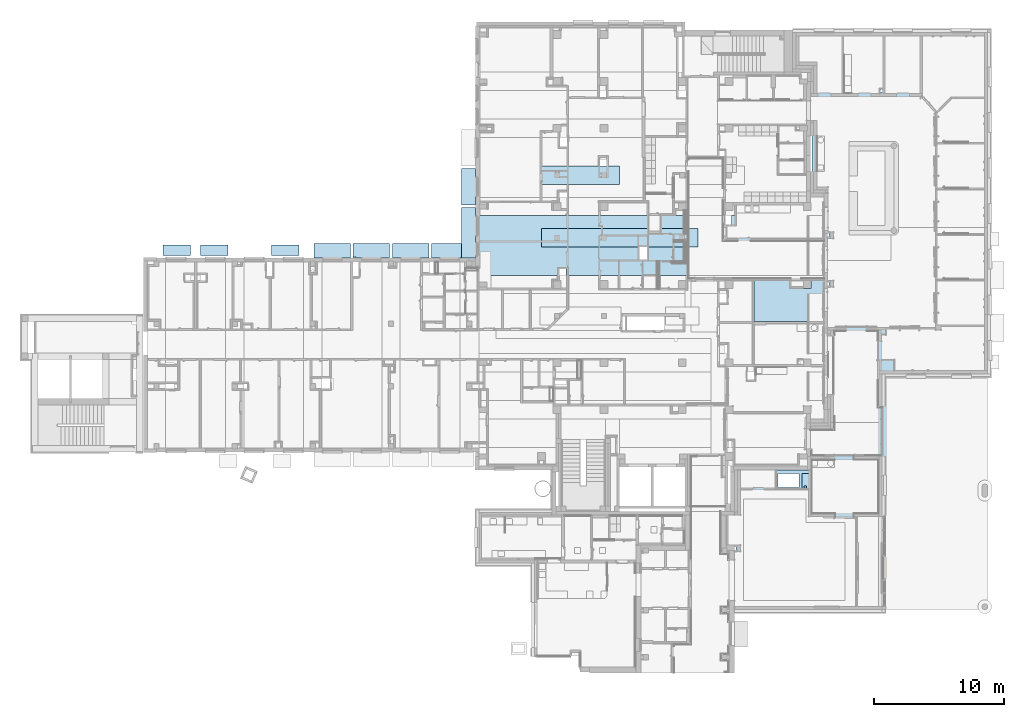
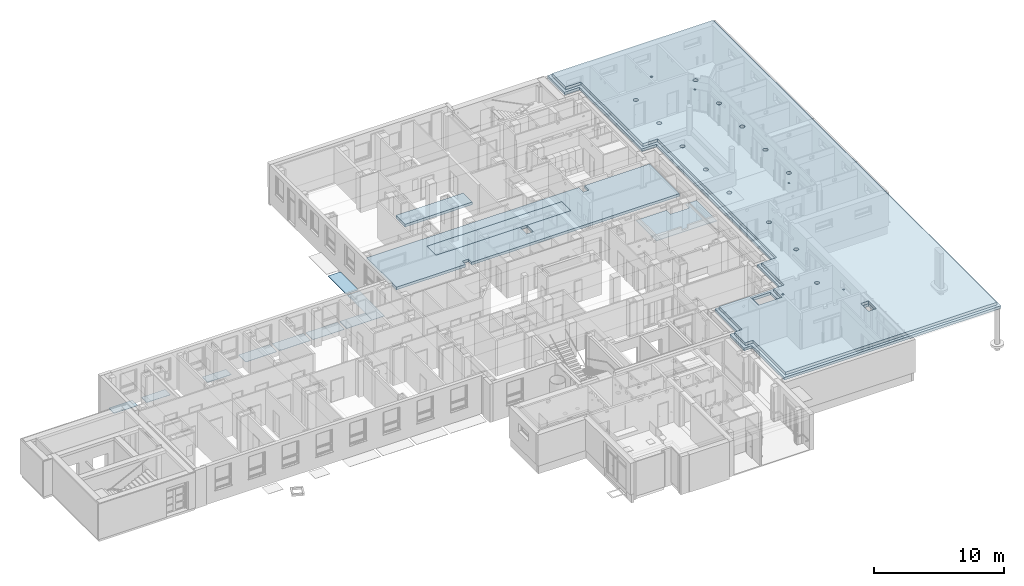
# One storey, part 11 of 140: 15 slabs, 51 openings.
"""IFC4 building model written with IfcOpenShell, lengths in metres."""

from ifc_helpers import new_model, entity, si_unit, converted_unit, derived_unit, frame, frame_2d, origin, origin_with_axes, place, context, subcontext, project, spatial, polyline, rectangle, circle, outline, extrude, material, element, save


model = new_model("IFC4")

# Units and contexts
model_context = context("Model", 3, precision=1e-05, world=origin())
body_context = subcontext(model_context, "Body", "Model", "MODEL_VIEW")
ifc_project = project(units=[si_unit("LENGTHUNIT", "METRE"), si_unit("AREAUNIT", "SQUARE_METRE"), si_unit("VOLUMEUNIT", "CUBIC_METRE"), si_unit("MASSUNIT", "GRAM", prefix="KILO"), converted_unit("PLANEANGLEUNIT", "DEGREE", entity("IfcPlaneAngleMeasure", 0.0174532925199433), si_unit("PLANEANGLEUNIT", "RADIAN"), dimensions=[0, 0, 0, 0, 0, 0, 0]), derived_unit("THERMALTRANSMITTANCEUNIT", [(si_unit("POWERUNIT", "WATT"), 1), (si_unit("THERMODYNAMICTEMPERATUREUNIT", "KELVIN"), -1), (si_unit("LENGTHUNIT", "METRE"), -2)]), derived_unit("VOLUMETRICFLOWRATEUNIT", [(si_unit("LENGTHUNIT", "METRE"), 3), (converted_unit("TIMEUNIT", "hour", entity("IfcTimeMeasure", 3600.0), si_unit("TIMEUNIT", "SECOND"), dimensions=[0, 0, 1, 0, 0, 0, 0]), -1), (si_unit("LENGTHUNIT", "METRE"), -1)])], contexts=[model_context])

# Site, building, storey
site_placement = place(None, origin())
site = spatial("IfcSite", under=ifc_project, at=site_placement, Name="3. ASŘ", CompositionType="ELEMENT")
building_placement = place(site_placement, origin())
building = spatial("IfcBuilding", under=site, at=building_placement, Name="Pavilon C", CompositionType="ELEMENT")
storey_placement = place(building_placement, origin())
storey = spatial("IfcBuildingStorey", under=building, at=storey_placement, Name="Půdorys 1.NP", CompositionType="ELEMENT", Elevation=0.0)

# Slabs
ifc_material_1 = material(Name="ROŠT")
slab_1_placement = place(storey_placement, frame((12.1, 15.25, 0.05)))
element("IfcSlab", 1, at=slab_1_placement, inside=storey, material=ifc_material_1, PredefinedType="FLOOR", context=body_context, shape_type="SweptSolid", body=[
    extrude(rectangle(XDim=1.10500000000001, YDim=2.8, at=frame_2d((1.4, -0.552500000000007), x_axis=(0.0, -1.0))), frame((0.0, 1.10500000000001, 0.0), z_axis=(0.0, 0.0, 1.0), x_axis=(1.0, 0.0, 0.0)), (0.0, 0.0, 1.0), 0.03),
])
ifc_material_2 = material(Name="ROŠT")
slab_2_placement = place(storey_placement, frame((23.395, 15.25, 0.05)))
element("IfcSlab", 2, at=slab_2_placement, inside=storey, material=ifc_material_2, PredefinedType="FLOOR", context=body_context, shape_type="SweptSolid", body=[
    extrude(rectangle(XDim=1.10500000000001, YDim=3.84999999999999, at=frame_2d((0.552500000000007, 1.925), x_axis=(1.0, 0.0))), origin_with_axes(), (0.0, 0.0, 1.0), 0.03),
])
ifc_material_3 = material(Name="ROŠT")
slab_3_placement = place(storey_placement, frame((21.1, 15.25, 0.05)))
element("IfcSlab", 3, at=slab_3_placement, inside=storey, material=ifc_material_3, PredefinedType="FLOOR", context=body_context, shape_type="SweptSolid", body=[
    extrude(rectangle(XDim=1.10500000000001, YDim=2.295, at=frame_2d((1.1475, -0.552500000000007), x_axis=(0.0, -1.0))), frame((0.0, 1.10500000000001, 0.0), z_axis=(0.0, 0.0, 1.0), x_axis=(1.0, 0.0, 0.0)), (0.0, 0.0, 1.0), 0.03),
])
ifc_material_4 = material(Name="ROŠT")
slab_4_placement = place(storey_placement, frame((18.1, 15.25, 0.05)))
element("IfcSlab", 4, at=slab_4_placement, inside=storey, material=ifc_material_4, PredefinedType="FLOOR", context=body_context, shape_type="SweptSolid", body=[
    extrude(rectangle(XDim=1.10500000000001, YDim=2.8, at=frame_2d((1.4, -0.552500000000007), x_axis=(0.0, -1.0))), frame((0.0, 1.10500000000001, 0.0), z_axis=(0.0, 0.0, 1.0), x_axis=(1.0, 0.0, 0.0)), (0.0, 0.0, 1.0), 0.03),
])
ifc_material_5 = material(Name="ROŠT")
slab_5_placement = place(storey_placement, frame((23.395, 19.3, 0.05)))
element("IfcSlab", 5, at=slab_5_placement, inside=storey, material=ifc_material_5, PredefinedType="FLOOR", context=body_context, shape_type="SweptSolid", body=[
    extrude(rectangle(XDim=1.10500000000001, YDim=2.8, at=frame_2d((0.552500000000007, 1.4), x_axis=(1.0, 0.0))), origin_with_axes(), (0.0, 0.0, 1.0), 0.03),
])

# Slab, opening
ifc_material_6 = material(Name="ROŠT")
slab_6_placement = place(storey_placement, frame((15.1, 15.25, 0.05)))
slab_6 = element("IfcSlab", 6, at=slab_6_placement, inside=storey, material=ifc_material_6, PredefinedType="FLOOR", context=body_context, shape_type="SweptSolid", body=[
    extrude(rectangle(XDim=1.10500000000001, YDim=2.8, at=frame_2d((1.4, -0.552500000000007), x_axis=(0.0, -1.0))), frame((0.0, 1.10500000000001, 0.0), z_axis=(0.0, 0.0, 1.0), x_axis=(1.0, 0.0, 0.0)), (0.0, 0.0, 1.0), 0.03),
])
opening_1_placement = place(slab_6_placement, frame((0.0379643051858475, 0.0150000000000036, 0.0)))
element("IfcOpeningElement", 7, at=opening_1_placement, cuts=slab_6, Name="Prostup deskou", ObjectType="Opening", context=body_context, shape_type="SweptSolid", body=[
    extrude(rectangle(XDim=0.08, YDim=0.13, at=frame_2d((0.0, -3.63797880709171e-15), x_axis=(0.0, -1.0))), frame((0.065, 0.0400000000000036, 0.0), z_axis=(0.0, 0.0, 1.0), x_axis=(1.0, 0.0, 0.0)), (0.0, 0.0, 1.0), 0.03),
])

# Slabs
ifc_material_7 = material(Name="RZT")
slab_7_placement = place(storey_placement, frame((29.55, 20.9, 3.25)))
element("IfcSlab", 8, at=slab_7_placement, inside=storey, material=ifc_material_7, PredefinedType="FLOOR", context=body_context, shape_type="SweptSolid", body=[
    extrude(rectangle(XDim=1.4, YDim=6.0, at=frame_2d((-3.0, 0.7), x_axis=(0.0, 1.0))), frame((6.0, 0.0, 0.0), z_axis=(0.0, 0.0, 1.0), x_axis=(1.0, 0.0, 0.0)), (0.0, 0.0, 1.0), 0.25),
])
ifc_material_8 = material(Name="RZT")
slab_8_placement = place(storey_placement, frame((29.55, 16.1, 3.25)))
element("IfcSlab", 9, at=slab_8_placement, inside=storey, material=ifc_material_8, PredefinedType="FLOOR", context=body_context, shape_type="SweptSolid", body=[
    extrude(rectangle(XDim=1.4, YDim=12.0, at=frame_2d((-6.0, 0.7), x_axis=(0.0, 1.0))), frame((12.0, 0.0, 0.0), z_axis=(0.0, 0.0, 1.0), x_axis=(1.0, 0.0, 0.0)), (0.0, 0.0, 1.0), 0.25),
])

# Slab, openings
ifc_material_9 = material(Name="PZD")
slab_9_placement = place(storey_placement, frame((24.75, 13.9, 3.25)))
slab_9 = element("IfcSlab", 10, at=slab_9_placement, inside=storey, material=ifc_material_9, PredefinedType="FLOOR", context=body_context, shape_type="SweptSolid", body=[
    extrude(outline(polyline([(0.0, 4.6), (0.0, 0.0), (25.2, 0.0), (25.2, 4.6), (0.0, 4.6)]), holes=[polyline([(4.8, 3.6), (16.8, 3.6), (16.8, 2.2), (4.8, 2.2), (4.8, 3.6)])]), origin_with_axes(), (0.0, 0.0, 1.0), 0.25),
])
opening_2_placement = place(slab_9_placement, frame((18.9, 3.9, 0.0)))
element("IfcOpeningElement", 11, at=opening_2_placement, cuts=slab_9, Name="Prostup deskou", ObjectType="Opening", context=body_context, shape_type="SweptSolid", body=[
    extrude(rectangle(XDim=0.7, YDim=0.5, at=frame_2d((7.27595761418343e-15, -3.63797880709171e-15), x_axis=(0.0, -1.0))), frame((0.249999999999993, 0.350000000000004, 0.0), z_axis=(0.0, 0.0, 1.0), x_axis=(1.0, 0.0, 0.0)), (0.0, 0.0, 1.0), 0.25),
])
opening_3_placement = place(slab_9_placement, frame((12.3, 1.2, 0.0)))
element("IfcOpeningElement", 12, at=opening_3_placement, cuts=slab_9, Name="Prostup deskou", ObjectType="Opening", context=body_context, shape_type="SweptSolid", body=[
    extrude(rectangle(XDim=1.0, YDim=0.6, at=frame_2d((7.27595761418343e-15, -3.63797880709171e-15), x_axis=(0.0, -1.0))), frame((0.299999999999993, 0.500000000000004, 0.0), z_axis=(0.0, 0.0, 1.0), x_axis=(1.0, 0.0, 0.0)), (0.0, 0.0, 1.0), 0.25),
])
opening_4_placement = place(slab_9_placement, frame((6.15, 0.0, 4.54747350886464e-16)))
element("IfcOpeningElement", 13, at=opening_4_placement, cuts=slab_9, Name="Prostup deskou", ObjectType="Opening", context=body_context, shape_type="SweptSolid", body=[
    extrude(rectangle(XDim=0.5, YDim=0.55, at=frame_2d((7.27595761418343e-15, -1.81898940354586e-15), x_axis=(0.0, -1.0))), frame((0.274999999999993, 0.250000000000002, -4.54747350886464e-16), z_axis=(0.0, 0.0, 1.0), x_axis=(1.0, 0.0, 0.0)), (0.0, 0.0, 1.0), 0.25),
])

# Slabs
ifc_material_10 = material(Name="KRYCÍ ROŠT ANGLICKÉHO DVORKU")
slab_10_placement = place(storey_placement, frame((0.495000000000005, 15.425, -0.83)))
element("IfcSlab", 14, at=slab_10_placement, inside=storey, material=ifc_material_10, PredefinedType="FLOOR", context=body_context, shape_type="SweptSolid", body=[
    extrude(rectangle(XDim=0.830000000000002, YDim=2.11, at=frame_2d((-1.055, 0.415000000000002), x_axis=(-1.09577674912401e-15, 1.0))), frame((2.11, 0.0, 0.0), z_axis=(0.0, 0.0, 1.0), x_axis=(1.0, 0.0, 0.0)), (0.0, 0.0, 1.0), 0.03),
])
ifc_material_11 = material(Name="KRYCÍ ROŠT ANGLICKÉHO DVORKU")
slab_11_placement = place(storey_placement, frame((8.82000000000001, 15.425, -0.83)))
element("IfcSlab", 15, at=slab_11_placement, inside=storey, material=ifc_material_11, PredefinedType="FLOOR", context=body_context, shape_type="SweptSolid", body=[
    extrude(rectangle(XDim=0.830000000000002, YDim=2.11, at=frame_2d((-1.055, 0.415000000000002), x_axis=(0.0, 1.0))), frame((2.11, 0.0, 0.0), z_axis=(0.0, 0.0, 1.0), x_axis=(1.0, 0.0, 0.0)), (0.0, 0.0, 1.0), 0.03),
])
ifc_material_12 = material(Name="KRYCÍ ROŠT ANGLICKÉHO DVORKU")
slab_12_placement = place(storey_placement, frame((3.395, 15.425, -0.83)))
element("IfcSlab", 16, at=slab_12_placement, inside=storey, material=ifc_material_12, PredefinedType="FLOOR", context=body_context, shape_type="SweptSolid", body=[
    extrude(rectangle(XDim=0.830000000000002, YDim=2.11, at=frame_2d((-1.055, 0.415000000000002), x_axis=(-1.09577674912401e-15, 1.0))), frame((2.11, 0.0, 0.0), z_axis=(0.0, 0.0, 1.0), x_axis=(1.0, 0.0, 0.0)), (0.0, 0.0, 1.0), 0.03),
])

# Slab, openings
ifc_material_13 = material(Name="ZELEZOBETONOVÁ KCE")
slab_13_placement = place(storey_placement, frame((43.77, -11.75, 3.4)))
slab_13 = element("IfcSlab", 17, at=slab_13_placement, inside=storey, material=ifc_material_13, PredefinedType="FLOOR", context=body_context, shape_type="SweptSolid", body=[
    extrude(outline(polyline([(0.71, 7.15), (0.0, 7.15), (0.0, 4.97000000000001), (0.71, 4.97000000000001), (0.71, 0.0), (20.03, 0.0), (20.03, 44.3), (5.21, 44.3), (5.21, 41.68), (6.56, 41.68), (6.56, 32.1), (7.86, 32.1), (7.86, 14.2), (6.5, 14.2), (6.5, 10.71), (0.71, 10.71), (0.71, 7.15)])), origin_with_axes(), (0.0, 0.0, 1.0), 0.25),
])
opening_5_placement = place(slab_13_placement, frame((9.08020580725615, 37.5252058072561, 0.0)))
element("IfcOpeningElement", 18, at=opening_5_placement, cuts=slab_13, Name="Prostup deskou", ObjectType="Opening", context=body_context, shape_type="SweptSolid", body=[
    extrude(circle(Radius=0.2, at=frame_2d((7.27595761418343e-15, 1.09139364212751e-14), x_axis=(1.0, 0.0))), frame((0.199794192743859, 0.199794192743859, 0.0), z_axis=(0.0, 0.0, 1.0), x_axis=(1.0, 0.0, 0.0)), (0.0, 0.0, 1.0), 0.25),
])
opening_6_placement = place(slab_13_placement, frame((14.3952058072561, 37.5252058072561, 0.0)))
element("IfcOpeningElement", 19, at=opening_6_placement, cuts=slab_13, Name="Prostup deskou", ObjectType="Opening", context=body_context, shape_type="SweptSolid", body=[
    extrude(circle(Radius=0.2, at=frame_2d((-2.91038304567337e-14, 0.0), x_axis=(1.0, 0.0))), frame((0.199794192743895, 0.19979419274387, 0.0), z_axis=(0.0, 0.0, 1.0), x_axis=(1.0, 0.0, 0.0)), (0.0, 0.0, 1.0), 0.25),
])
opening_7_placement = place(slab_13_placement, frame((14.3952058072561, 33.9252058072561, 0.0)))
element("IfcOpeningElement", 20, at=opening_7_placement, cuts=slab_13, Name="Prostup deskou", ObjectType="Opening", context=body_context, shape_type="SweptSolid", body=[
    extrude(circle(Radius=0.2, at=frame_2d((-1.45519152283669e-14, 0.0), x_axis=(1.0, 0.0))), frame((0.199794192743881, 0.19979419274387, 0.0), z_axis=(0.0, 0.0, 1.0), x_axis=(1.0, 0.0, 0.0)), (0.0, 0.0, 1.0), 0.25),
])
opening_8_placement = place(slab_13_placement, frame((14.3952058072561, 30.3252058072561, 4.54747350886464e-16)))
element("IfcOpeningElement", 21, at=opening_8_placement, cuts=slab_13, Name="Prostup deskou", ObjectType="Opening", context=body_context, shape_type="SweptSolid", body=[
    extrude(circle(Radius=0.2, at=frame_2d((-2.18278728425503e-14, -3.63797880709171e-15), x_axis=(1.0, 0.0))), frame((0.199794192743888, 0.199794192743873, -4.54747350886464e-16), z_axis=(0.0, 0.0, 1.0), x_axis=(1.0, 0.0, 0.0)), (0.0, 0.0, 1.0), 0.25),
])
opening_9_placement = place(slab_13_placement, frame((9.74520580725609, 13.9502058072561, 0.0)))
element("IfcOpeningElement", 22, at=opening_9_placement, cuts=slab_13, Name="Prostup deskou", ObjectType="Opening", context=body_context, shape_type="SweptSolid", body=[
    extrude(circle(Radius=0.2, at=frame_2d((-1.45519152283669e-14, 4.54747350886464e-16), x_axis=(1.0, 0.0))), frame((0.199794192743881, 0.199794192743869, 0.0), z_axis=(0.0, 0.0, 1.0), x_axis=(1.0, 0.0, 0.0)), (0.0, 0.0, 1.0), 0.25),
])
opening_10_placement = place(slab_13_placement, frame((8.88020580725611, 9.24020580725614, 0.0)))
element("IfcOpeningElement", 23, at=opening_10_placement, cuts=slab_13, Name="Prostup deskou", ObjectType="Opening", context=body_context, shape_type="SweptSolid", body=[
    extrude(circle(Radius=0.2, at=frame_2d((-2.18278728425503e-14, -4.54747350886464e-16), x_axis=(1.0, 0.0))), frame((0.199794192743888, 0.19979419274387, 0.0), z_axis=(0.0, 0.0, 1.0), x_axis=(1.0, 0.0, 0.0)), (0.0, 0.0, 1.0), 0.25),
])
opening_11_placement = place(slab_13_placement, frame((3.93, 9.35999999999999, 0.0)))
element("IfcOpeningElement", 24, at=opening_11_placement, cuts=slab_13, Name="Prostup deskou", ObjectType="Opening", context=body_context, shape_type="SweptSolid", body=[
    extrude(rectangle(XDim=1.6, YDim=1.1, at=frame_2d((0.0, 0.0), x_axis=(1.0, 1.08002495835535e-14))), frame((0.8, 0.550000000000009, 0.0), z_axis=(0.0, 0.0, 1.0), x_axis=(1.0, 0.0, 0.0)), (0.0, 0.0, 1.0), 0.25),
])
opening_12_placement = place(slab_13_placement, frame((13.835077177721, 36.575077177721, 0.0)))
element("IfcOpeningElement", 25, at=opening_12_placement, cuts=slab_13, Name="Prostup deskou", ObjectType="Opening", context=body_context, shape_type="SweptSolid", body=[
    extrude(circle(Radius=0.0749999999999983, at=frame_2d((7.27595761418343e-15, -7.27595761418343e-15), x_axis=(1.0, 0.0))), frame((0.0749228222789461, 0.074922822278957, 0.0), z_axis=(0.0, 0.0, 1.0), x_axis=(1.0, 0.0, 0.0)), (0.0, 0.0, 1.0), 0.25),
])
opening_13_placement = place(slab_13_placement, frame((13.835077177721, 22.075077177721, 0.0)))
element("IfcOpeningElement", 26, at=opening_13_placement, cuts=slab_13, Name="Prostup deskou", ObjectType="Opening", context=body_context, shape_type="SweptSolid", body=[
    extrude(circle(Radius=0.0749999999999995, at=frame_2d((-1.45519152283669e-14, 0.0), x_axis=(1.0, 0.0))), frame((0.0749228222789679, 0.0749228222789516, 0.0), z_axis=(0.0, 0.0, 1.0), x_axis=(1.0, 0.0, 0.0)), (0.0, 0.0, 1.0), 0.25),
])
opening_14_placement = place(slab_13_placement, frame((10.335077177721, 7.57507717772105, 0.0)))
element("IfcOpeningElement", 27, at=opening_14_placement, cuts=slab_13, Name="Prostup deskou", ObjectType="Opening", context=body_context, shape_type="SweptSolid", body=[
    extrude(circle(Radius=0.0749999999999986, at=frame_2d((-7.27595761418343e-15, 0.0), x_axis=(1.0, 0.0))), frame((0.0749228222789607, 0.0749228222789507, 0.0), z_axis=(0.0, 0.0, 1.0), x_axis=(1.0, 0.0, 0.0)), (0.0, 0.0, 1.0), 0.25),
])
opening_15_placement = place(slab_13_placement, frame((9.74520580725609, 13.9502058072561, 0.0)))
element("IfcOpeningElement", 28, at=opening_15_placement, cuts=slab_13, Name="Prostup deskou", ObjectType="Opening", context=body_context, shape_type="SweptSolid", body=[
    extrude(circle(Radius=0.2, at=frame_2d((-1.45519152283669e-14, 4.54747350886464e-16), x_axis=(1.0, 0.0))), frame((0.199794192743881, 0.199794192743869, 0.0), z_axis=(0.0, 0.0, 1.0), x_axis=(1.0, 0.0, 0.0)), (0.0, 0.0, 1.0), 0.25),
])
opening_16_placement = place(slab_13_placement, frame((9.08020580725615, 37.5252058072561, 0.0)))
element("IfcOpeningElement", 29, at=opening_16_placement, cuts=slab_13, Name="Prostup deskou", ObjectType="Opening", context=body_context, shape_type="SweptSolid", body=[
    extrude(circle(Radius=0.2, at=frame_2d((7.27595761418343e-15, 1.09139364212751e-14), x_axis=(1.0, 0.0))), frame((0.199794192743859, 0.199794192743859, 0.0), z_axis=(0.0, 0.0, 1.0), x_axis=(1.0, 0.0, 0.0)), (0.0, 0.0, 1.0), 0.25),
])
opening_17_placement = place(slab_13_placement, frame((14.3952058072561, 33.9252058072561, 0.0)))
element("IfcOpeningElement", 30, at=opening_17_placement, cuts=slab_13, Name="Prostup deskou", ObjectType="Opening", context=body_context, shape_type="SweptSolid", body=[
    extrude(circle(Radius=0.2, at=frame_2d((-1.45519152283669e-14, 0.0), x_axis=(1.0, 0.0))), frame((0.199794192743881, 0.19979419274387, 0.0), z_axis=(0.0, 0.0, 1.0), x_axis=(1.0, 0.0, 0.0)), (0.0, 0.0, 1.0), 0.25),
])
opening_18_placement = place(slab_13_placement, frame((10.62, 4.14799572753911, 4.54747350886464e-16)))
element("IfcOpeningElement", 31, at=opening_18_placement, cuts=slab_13, Name="Prostup deskou", ObjectType="Opening", context=body_context, shape_type="SweptSolid", body=[
    extrude(rectangle(XDim=0.7, YDim=1.2, at=frame_2d((0.0, -9.09494701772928e-16), x_axis=(1.0, 0.0))), frame((0.35, 0.600000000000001, -4.54747350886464e-16), z_axis=(0.0, 0.0, 1.0), x_axis=(1.0, 0.0, 0.0)), (0.0, 0.0, 1.0), 0.25),
])
opening_19_placement = place(slab_13_placement, frame((14.3952058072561, 23.1252058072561, 0.0)))
element("IfcOpeningElement", 32, at=opening_19_placement, cuts=slab_13, Name="Prostup deskou", ObjectType="Opening", context=body_context, shape_type="SweptSolid", body=[
    extrude(circle(Radius=0.2, at=frame_2d((-2.18278728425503e-14, 5.45696821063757e-15), x_axis=(1.0, 0.0))), frame((0.199794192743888, 0.199794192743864, 0.0), z_axis=(0.0, 0.0, 1.0), x_axis=(1.0, 0.0, 0.0)), (0.0, 0.0, 1.0), 0.25),
])
opening_20_placement = place(slab_13_placement, frame((14.3952058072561, 26.7252058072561, 0.0)))
element("IfcOpeningElement", 33, at=opening_20_placement, cuts=slab_13, Name="Prostup deskou", ObjectType="Opening", context=body_context, shape_type="SweptSolid", body=[
    extrude(circle(Radius=0.2, at=frame_2d((-2.18278728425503e-14, -3.63797880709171e-15), x_axis=(1.0, 0.0))), frame((0.199794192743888, 0.199794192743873, 0.0), z_axis=(0.0, 0.0, 1.0), x_axis=(1.0, 0.0, 0.0)), (0.0, 0.0, 1.0), 0.25),
])
opening_21_placement = place(slab_13_placement, frame((9.08020580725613, 33.9252058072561, 0.0)))
element("IfcOpeningElement", 34, at=opening_21_placement, cuts=slab_13, Name="Prostup deskou", ObjectType="Opening", context=body_context, shape_type="SweptSolid", body=[
    extrude(circle(Radius=0.2, at=frame_2d((7.27595761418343e-15, 0.0), x_axis=(1.0, 0.0))), frame((0.199794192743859, 0.19979419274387, 0.0), z_axis=(0.0, 0.0, 1.0), x_axis=(1.0, 0.0, 0.0)), (0.0, 0.0, 1.0), 0.25),
])
opening_22_placement = place(slab_13_placement, frame((9.08020580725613, 33.9252058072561, 0.0)))
element("IfcOpeningElement", 35, at=opening_22_placement, cuts=slab_13, Name="Prostup deskou", ObjectType="Opening", context=body_context, shape_type="SweptSolid", body=[
    extrude(circle(Radius=0.2, at=frame_2d((7.27595761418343e-15, 0.0), x_axis=(1.0, 0.0))), frame((0.199794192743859, 0.19979419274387, 0.0), z_axis=(0.0, 0.0, 1.0), x_axis=(1.0, 0.0, 0.0)), (0.0, 0.0, 1.0), 0.25),
])
opening_23_placement = place(slab_13_placement, frame((9.08020580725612, 30.3252058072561, 0.0)))
element("IfcOpeningElement", 36, at=opening_23_placement, cuts=slab_13, Name="Prostup deskou", ObjectType="Opening", context=body_context, shape_type="SweptSolid", body=[
    extrude(circle(Radius=0.2, at=frame_2d((0.0, -3.63797880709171e-15), x_axis=(1.0, 0.0))), frame((0.199794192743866, 0.199794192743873, 0.0), z_axis=(0.0, 0.0, 1.0), x_axis=(1.0, 0.0, 0.0)), (0.0, 0.0, 1.0), 0.25),
])
opening_24_placement = place(slab_13_placement, frame((9.08020580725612, 30.3252058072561, 0.0)))
element("IfcOpeningElement", 37, at=opening_24_placement, cuts=slab_13, Name="Prostup deskou", ObjectType="Opening", context=body_context, shape_type="SweptSolid", body=[
    extrude(circle(Radius=0.2, at=frame_2d((0.0, -3.63797880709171e-15), x_axis=(1.0, 0.0))), frame((0.199794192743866, 0.199794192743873, 0.0), z_axis=(0.0, 0.0, 1.0), x_axis=(1.0, 0.0, 0.0)), (0.0, 0.0, 1.0), 0.25),
])
opening_25_placement = place(slab_13_placement, frame((9.08020580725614, 23.1252058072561, 0.0)))
element("IfcOpeningElement", 38, at=opening_25_placement, cuts=slab_13, Name="Prostup deskou", ObjectType="Opening", context=body_context, shape_type="SweptSolid", body=[
    extrude(circle(Radius=0.2, at=frame_2d((1.45519152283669e-14, 3.63797880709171e-15), x_axis=(1.0, 0.0))), frame((0.199794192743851, 0.199794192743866, 0.0), z_axis=(0.0, 0.0, 1.0), x_axis=(1.0, 0.0, 0.0)), (0.0, 0.0, 1.0), 0.25),
])
opening_26_placement = place(slab_13_placement, frame((9.08020580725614, 23.1252058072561, 0.0)))
element("IfcOpeningElement", 39, at=opening_26_placement, cuts=slab_13, Name="Prostup deskou", ObjectType="Opening", context=body_context, shape_type="SweptSolid", body=[
    extrude(circle(Radius=0.2, at=frame_2d((1.45519152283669e-14, 3.63797880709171e-15), x_axis=(1.0, 0.0))), frame((0.199794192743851, 0.199794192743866, 0.0), z_axis=(0.0, 0.0, 1.0), x_axis=(1.0, 0.0, 0.0)), (0.0, 0.0, 1.0), 0.25),
])
opening_27_placement = place(slab_13_placement, frame((9.08020580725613, 26.7252058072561, 0.0)))
element("IfcOpeningElement", 40, at=opening_27_placement, cuts=slab_13, Name="Prostup deskou", ObjectType="Opening", context=body_context, shape_type="SweptSolid", body=[
    extrude(circle(Radius=0.2, at=frame_2d((7.27595761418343e-15, -1.81898940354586e-15), x_axis=(1.0, 0.0))), frame((0.199794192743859, 0.199794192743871, 0.0), z_axis=(0.0, 0.0, 1.0), x_axis=(1.0, 0.0, 0.0)), (0.0, 0.0, 1.0), 0.25),
])
opening_28_placement = place(slab_13_placement, frame((9.08020580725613, 26.7252058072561, 0.0)))
element("IfcOpeningElement", 41, at=opening_28_placement, cuts=slab_13, Name="Prostup deskou", ObjectType="Opening", context=body_context, shape_type="SweptSolid", body=[
    extrude(circle(Radius=0.2, at=frame_2d((7.27595761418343e-15, -1.81898940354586e-15), x_axis=(1.0, 0.0))), frame((0.199794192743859, 0.199794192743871, 0.0), z_axis=(0.0, 0.0, 1.0), x_axis=(1.0, 0.0, 0.0)), (0.0, 0.0, 1.0), 0.25),
])
opening_29_placement = place(slab_13_placement, frame((9.74520580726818, 18.1502058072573, 0.0)))
element("IfcOpeningElement", 42, at=opening_29_placement, cuts=slab_13, Name="Prostup deskou", ObjectType="Opening", context=body_context, shape_type="SweptSolid", body=[
    extrude(circle(Radius=0.2, at=frame_2d((-1.45519152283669e-14, 0.0), x_axis=(1.0, 0.0))), frame((0.199794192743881, 0.19979419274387, 0.0), z_axis=(0.0, 0.0, 1.0), x_axis=(1.0, 0.0, 0.0)), (0.0, 0.0, 1.0), 0.25),
])
opening_30_placement = place(slab_13_placement, frame((9.74520580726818, 18.1502058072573, 0.0)))
element("IfcOpeningElement", 43, at=opening_30_placement, cuts=slab_13, Name="Prostup deskou", ObjectType="Opening", context=body_context, shape_type="SweptSolid", body=[
    extrude(circle(Radius=0.2, at=frame_2d((-1.45519152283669e-14, 0.0), x_axis=(1.0, 0.0))), frame((0.199794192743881, 0.19979419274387, 0.0), z_axis=(0.0, 0.0, 1.0), x_axis=(1.0, 0.0, 0.0)), (0.0, 0.0, 1.0), 0.25),
])
opening_31_placement = place(slab_13_placement, frame((6.54939579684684, 9.31510290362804, 0.0)))
element("IfcOpeningElement", 44, at=opening_31_placement, cuts=slab_13, Name="Prostup deskou", ObjectType="Opening", context=body_context, shape_type="SweptSolid", body=[
    extrude(circle(Radius=0.100000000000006, at=frame_2d((-7.27595761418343e-15, 4.54747350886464e-16), x_axis=(1.0, 0.0))), frame((0.0998970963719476, 0.099897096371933, 0.0), z_axis=(0.0, 0.0, 1.0), x_axis=(1.0, 0.0, 0.0)), (0.0, 0.0, 1.0), 0.25),
])
opening_32_placement = place(slab_13_placement, frame((11.7806852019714, 39.7251029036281, 4.54747350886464e-16)))
element("IfcOpeningElement", 45, at=opening_32_placement, cuts=slab_13, Name="Prostup deskou", ObjectType="Opening", context=body_context, shape_type="SweptSolid", body=[
    extrude(circle(Radius=0.0999999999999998, at=frame_2d((-4.36557456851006e-14, -7.27595761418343e-15), x_axis=(1.0, 0.0))), frame((0.0998970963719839, 0.0998970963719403, -4.54747350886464e-16), z_axis=(0.0, 0.0, 1.0), x_axis=(1.0, 0.0, 0.0)), (0.0, 0.0, 1.0), 0.25),
])

ifc_material_14 = material(Name="PIR")
slab_14_placement = place(storey_placement, frame((44.02, -11.5, 3.65)))
slab_14 = element("IfcSlab", 46, at=slab_14_placement, inside=storey, material=ifc_material_14, PredefinedType="FLOOR", context=body_context, shape_type="SweptSolid", body=[
    extrude(outline(polyline([(0.71, 0.0), (19.53, 0.0), (19.53, 43.8), (5.21, 43.8), (5.21, 41.68), (6.56, 41.68), (6.56, 32.1), (7.86, 32.1), (7.86, 13.7), (6.5, 13.7), (6.5, 10.21), (5.53, 10.21), (5.53, 8.86000000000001), (3.43000000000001, 8.85999999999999), (3.43000000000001, 10.21), (0.71, 10.21), (0.71, 6.65), (0.0, 6.65), (0.0, 4.97000000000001), (0.71, 4.97000000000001), (0.71, 0.0)])), origin_with_axes(), (0.0, 0.0, 1.0), 0.26),
])
opening_33_placement = place(slab_14_placement, frame((10.085077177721, 7.32507717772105, 0.0)))
element("IfcOpeningElement", 47, at=opening_33_placement, cuts=slab_14, Name="Prostup deskou", ObjectType="Opening", context=body_context, shape_type="SweptSolid", body=[
    extrude(circle(Radius=0.0749999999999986, at=frame_2d((1.45519152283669e-14, 4.54747350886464e-15), x_axis=(1.0, 0.0))), frame((0.0749228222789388, 0.0749228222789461, 0.0), z_axis=(0.0, 0.0, 1.0), x_axis=(1.0, 0.0, 0.0)), (0.0, 0.0, 1.0), 0.26),
])
opening_34_placement = place(slab_14_placement, frame((13.585077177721, 21.825077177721, 0.0)))
element("IfcOpeningElement", 48, at=opening_34_placement, cuts=slab_14, Name="Prostup deskou", ObjectType="Opening", context=body_context, shape_type="SweptSolid", body=[
    extrude(circle(Radius=0.0749999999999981, at=frame_2d((1.45519152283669e-14, 0.0), x_axis=(1.0, 0.0))), frame((0.0749228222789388, 0.0749228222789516, 0.0), z_axis=(0.0, 0.0, 1.0), x_axis=(1.0, 0.0, 0.0)), (0.0, 0.0, 1.0), 0.26),
])
opening_35_placement = place(slab_14_placement, frame((13.585077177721, 36.325077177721, 0.0)))
element("IfcOpeningElement", 49, at=opening_35_placement, cuts=slab_14, Name="Prostup deskou", ObjectType="Opening", context=body_context, shape_type="SweptSolid", body=[
    extrude(circle(Radius=0.0749999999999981, at=frame_2d((0.0, -1.45519152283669e-14), x_axis=(1.0, 0.0))), frame((0.0749228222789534, 0.0749228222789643, 0.0), z_axis=(0.0, 0.0, 1.0), x_axis=(1.0, 0.0, 0.0)), (0.0, 0.0, 1.0), 0.26),
])
opening_36_placement = place(slab_14_placement, frame((10.3700000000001, 3.89799572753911, 4.54747350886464e-16)))
element("IfcOpeningElement", 50, at=opening_36_placement, cuts=slab_14, Name="Prostup deskou", ObjectType="Opening", context=body_context, shape_type="SweptSolid", body=[
    extrude(rectangle(XDim=0.7, YDim=1.2, at=frame_2d((0.0, -9.09494701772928e-16), x_axis=(1.0, 0.0))), frame((0.35, 0.600000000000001, -4.54747350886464e-16), z_axis=(0.0, 0.0, 1.0), x_axis=(1.0, 0.0, 0.0)), (0.0, 0.0, 1.0), 0.26),
])
opening_37_placement = place(slab_14_placement, frame((14.1452058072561, 37.2752058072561, 0.0)))
element("IfcOpeningElement", 51, at=opening_37_placement, cuts=slab_14, Name="Prostup deskou", ObjectType="Opening", context=body_context, shape_type="SweptSolid", body=[
    extrude(circle(Radius=0.2, at=frame_2d((-2.91038304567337e-14, 0.0), x_axis=(1.0, 0.0))), frame((0.199794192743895, 0.19979419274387, 0.0), z_axis=(0.0, 0.0, 1.0), x_axis=(1.0, 0.0, 0.0)), (0.0, 0.0, 1.0), 0.26),
])
opening_38_placement = place(slab_14_placement, frame((14.1452058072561, 33.6752058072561, 0.0)))
element("IfcOpeningElement", 52, at=opening_38_placement, cuts=slab_14, Name="Prostup deskou", ObjectType="Opening", context=body_context, shape_type="SweptSolid", body=[
    extrude(circle(Radius=0.2, at=frame_2d((-1.45519152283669e-14, 0.0), x_axis=(1.0, 0.0))), frame((0.199794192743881, 0.19979419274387, 0.0), z_axis=(0.0, 0.0, 1.0), x_axis=(1.0, 0.0, 0.0)), (0.0, 0.0, 1.0), 0.26),
])
opening_39_placement = place(slab_14_placement, frame((8.63020580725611, 8.99020580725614, 0.0)))
element("IfcOpeningElement", 53, at=opening_39_placement, cuts=slab_14, Name="Prostup deskou", ObjectType="Opening", context=body_context, shape_type="SweptSolid", body=[
    extrude(circle(Radius=0.2, at=frame_2d((-1.45519152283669e-14, -9.09494701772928e-16), x_axis=(1.0, 0.0))), frame((0.199794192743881, 0.19979419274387, 0.0), z_axis=(0.0, 0.0, 1.0), x_axis=(1.0, 0.0, 0.0)), (0.0, 0.0, 1.0), 0.26),
])
opening_40_placement = place(slab_14_placement, frame((9.49520580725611, 13.7002058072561, 0.0)))
element("IfcOpeningElement", 54, at=opening_40_placement, cuts=slab_14, Name="Prostup deskou", ObjectType="Opening", context=body_context, shape_type="SweptSolid", body=[
    extrude(circle(Radius=0.2, at=frame_2d((-1.45519152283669e-14, 4.54747350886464e-16), x_axis=(1.0, 0.0))), frame((0.199794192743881, 0.199794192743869, 0.0), z_axis=(0.0, 0.0, 1.0), x_axis=(1.0, 0.0, 0.0)), (0.0, 0.0, 1.0), 0.26),
])
opening_41_placement = place(slab_14_placement, frame((14.1452058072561, 30.0752058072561, 4.54747350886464e-16)))
element("IfcOpeningElement", 55, at=opening_41_placement, cuts=slab_14, Name="Prostup deskou", ObjectType="Opening", context=body_context, shape_type="SweptSolid", body=[
    extrude(circle(Radius=0.2, at=frame_2d((-2.18278728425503e-14, -3.63797880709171e-15), x_axis=(1.0, 0.0))), frame((0.199794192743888, 0.199794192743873, -4.54747350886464e-16), z_axis=(0.0, 0.0, 1.0), x_axis=(1.0, 0.0, 0.0)), (0.0, 0.0, 1.0), 0.26),
])
opening_42_placement = place(slab_14_placement, frame((14.1452058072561, 22.8752058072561, 0.0)))
element("IfcOpeningElement", 56, at=opening_42_placement, cuts=slab_14, Name="Prostup deskou", ObjectType="Opening", context=body_context, shape_type="SweptSolid", body=[
    extrude(circle(Radius=0.2, at=frame_2d((-2.18278728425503e-14, 5.45696821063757e-15), x_axis=(1.0, 0.0))), frame((0.199794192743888, 0.199794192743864, 0.0), z_axis=(0.0, 0.0, 1.0), x_axis=(1.0, 0.0, 0.0)), (0.0, 0.0, 1.0), 0.26),
])
opening_43_placement = place(slab_14_placement, frame((14.1452058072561, 26.4752058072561, 0.0)))
element("IfcOpeningElement", 57, at=opening_43_placement, cuts=slab_14, Name="Prostup deskou", ObjectType="Opening", context=body_context, shape_type="SweptSolid", body=[
    extrude(circle(Radius=0.2, at=frame_2d((-2.18278728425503e-14, -3.63797880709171e-15), x_axis=(1.0, 0.0))), frame((0.199794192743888, 0.199794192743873, 0.0), z_axis=(0.0, 0.0, 1.0), x_axis=(1.0, 0.0, 0.0)), (0.0, 0.0, 1.0), 0.26),
])
opening_44_placement = place(slab_14_placement, frame((8.83020580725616, 37.2752058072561, 0.0)))
element("IfcOpeningElement", 58, at=opening_44_placement, cuts=slab_14, Name="Prostup deskou", ObjectType="Opening", context=body_context, shape_type="SweptSolid", body=[
    extrude(circle(Radius=0.2, at=frame_2d((7.27595761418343e-15, 1.09139364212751e-14), x_axis=(1.0, 0.0))), frame((0.199794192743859, 0.199794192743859, 0.0), z_axis=(0.0, 0.0, 1.0), x_axis=(1.0, 0.0, 0.0)), (0.0, 0.0, 1.0), 0.26),
])
opening_45_placement = place(slab_14_placement, frame((8.83020580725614, 33.6752058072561, 0.0)))
element("IfcOpeningElement", 59, at=opening_45_placement, cuts=slab_14, Name="Prostup deskou", ObjectType="Opening", context=body_context, shape_type="SweptSolid", body=[
    extrude(circle(Radius=0.2, at=frame_2d((7.27595761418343e-15, 0.0), x_axis=(1.0, 0.0))), frame((0.199794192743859, 0.19979419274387, 0.0), z_axis=(0.0, 0.0, 1.0), x_axis=(1.0, 0.0, 0.0)), (0.0, 0.0, 1.0), 0.26),
])
opening_46_placement = place(slab_14_placement, frame((8.83020580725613, 30.0752058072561, 0.0)))
element("IfcOpeningElement", 60, at=opening_46_placement, cuts=slab_14, Name="Prostup deskou", ObjectType="Opening", context=body_context, shape_type="SweptSolid", body=[
    extrude(circle(Radius=0.2, at=frame_2d((0.0, -3.63797880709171e-15), x_axis=(1.0, 0.0))), frame((0.199794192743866, 0.199794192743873, 0.0), z_axis=(0.0, 0.0, 1.0), x_axis=(1.0, 0.0, 0.0)), (0.0, 0.0, 1.0), 0.26),
])
opening_47_placement = place(slab_14_placement, frame((8.83020580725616, 22.8752058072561, 0.0)))
element("IfcOpeningElement", 61, at=opening_47_placement, cuts=slab_14, Name="Prostup deskou", ObjectType="Opening", context=body_context, shape_type="SweptSolid", body=[
    extrude(circle(Radius=0.2, at=frame_2d((1.45519152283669e-14, 3.63797880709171e-15), x_axis=(1.0, 0.0))), frame((0.199794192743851, 0.199794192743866, 0.0), z_axis=(0.0, 0.0, 1.0), x_axis=(1.0, 0.0, 0.0)), (0.0, 0.0, 1.0), 0.26),
])
opening_48_placement = place(slab_14_placement, frame((8.83020580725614, 26.4752058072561, 0.0)))
element("IfcOpeningElement", 62, at=opening_48_placement, cuts=slab_14, Name="Prostup deskou", ObjectType="Opening", context=body_context, shape_type="SweptSolid", body=[
    extrude(circle(Radius=0.2, at=frame_2d((7.27595761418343e-15, -1.81898940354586e-15), x_axis=(1.0, 0.0))), frame((0.199794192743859, 0.199794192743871, 0.0), z_axis=(0.0, 0.0, 1.0), x_axis=(1.0, 0.0, 0.0)), (0.0, 0.0, 1.0), 0.26),
])
opening_49_placement = place(slab_14_placement, frame((9.4952058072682, 17.9002058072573, 4.54747350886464e-16)))
element("IfcOpeningElement", 63, at=opening_49_placement, cuts=slab_14, Name="Prostup deskou", ObjectType="Opening", context=body_context, shape_type="SweptSolid", body=[
    extrude(circle(Radius=0.2, at=frame_2d((-1.45519152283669e-14, -9.09494701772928e-16), x_axis=(1.0, 0.0))), frame((0.199794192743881, 0.19979419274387, -4.54747350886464e-16), z_axis=(0.0, 0.0, 1.0), x_axis=(1.0, 0.0, 0.0)), (0.0, 0.0, 1.0), 0.26),
])
opening_50_placement = place(slab_14_placement, frame((5.67510290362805, 9.06510290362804, 0.0)))
element("IfcOpeningElement", 64, at=opening_50_placement, cuts=slab_14, Name="Prostup deskou", ObjectType="Opening", context=body_context, shape_type="SweptSolid", body=[
    extrude(circle(Radius=0.0999999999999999, at=frame_2d((0.0, -4.54747350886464e-16), x_axis=(1.0, 0.0))), frame((0.099897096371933, 0.0998970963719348, 0.0), z_axis=(0.0, 0.0, 1.0), x_axis=(1.0, 0.0, 0.0)), (0.0, 0.0, 1.0), 0.26),
])
opening_51_placement = place(slab_14_placement, frame((11.5306852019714, 39.4751029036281, 0.0)))
element("IfcOpeningElement", 65, at=opening_51_placement, cuts=slab_14, Name="Prostup deskou", ObjectType="Opening", context=body_context, shape_type="SweptSolid", body=[
    extrude(circle(Radius=0.0999999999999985, at=frame_2d((-2.18278728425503e-14, 1.09139364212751e-14), x_axis=(1.0, 0.0))), frame((0.0998970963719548, 0.0998970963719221, 0.0), z_axis=(0.0, 0.0, 1.0), x_axis=(1.0, 0.0, 0.0)), (0.0, 0.0, 1.0), 0.26),
])

# Slab
ifc_material_15 = material(Name="Kazetový podhled bílý 0,6×0,6")
slab_15_placement = place(storey_placement, frame((45.855, 10.35, 2.6)))
element("IfcSlab", 66, at=slab_15_placement, inside=storey, material=ifc_material_15, PredefinedType="FLOOR", context=body_context, shape_type="SweptSolid", body=[
    extrude(outline(polyline([(2.72, 3.15000000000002), (0.0, 3.15000000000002), (0.0, 0.0), (5.395, 0.0), (5.395, 3.15000000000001), (4.395, 3.15000000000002), (4.395, 2.55000000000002), (2.72, 2.55000000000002), (2.72, 3.15000000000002)])), origin_with_axes(), (0.0, 0.0, 1.0), 0.05),
])

save(model, "model.ifc")
